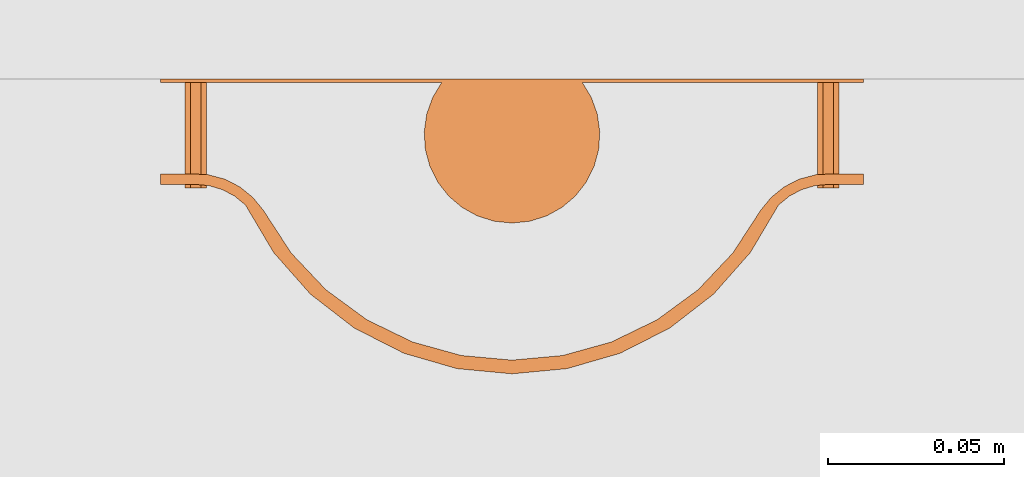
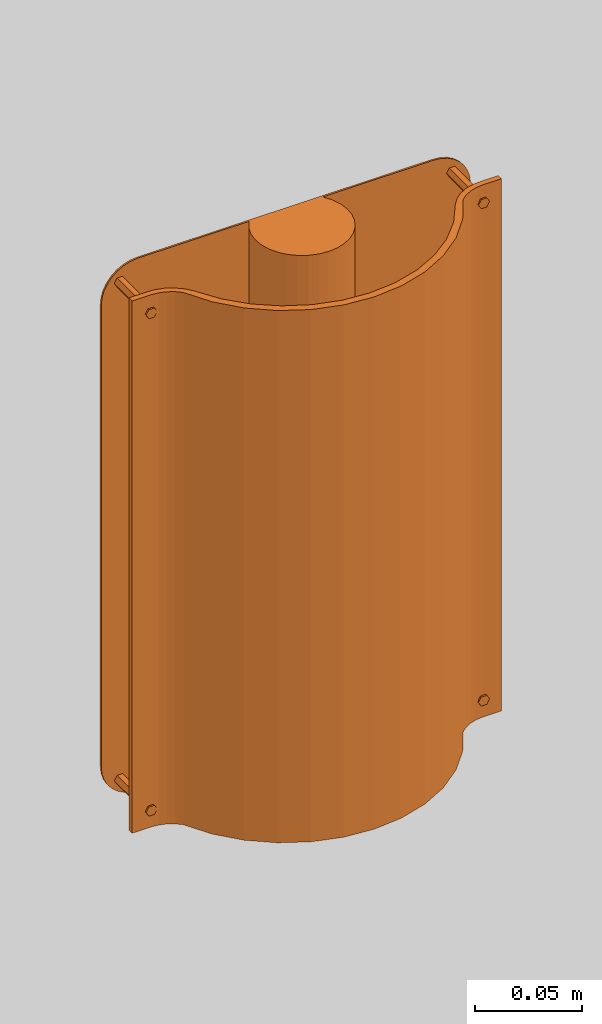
# One storey, part 30 of 48: 1 proxy.
"""IFC2X3 building model written with IfcOpenShell, lengths in inches."""

from ifc_helpers import new_model, entity, si_unit, converted_unit, derived_unit, money_unit, direction, frame, origin_with_axes, place, context, subcontext, project, spatial, faceted_brep, source, transform, mapped, type_object, element, save


model = new_model("IFC2X3")

# Units and contexts
model_context = context("Model", 3, precision=0.00039370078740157, world=origin_with_axes(), true_north=direction((0.0, 1.0)))
plan_context = context("Plan", 3, precision=0.00039370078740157, world=origin_with_axes(), true_north=direction((0.0, 1.0)))
body_context = subcontext(model_context, "Body", "Model", "MODEL_VIEW")
ifc_project = project(units=[converted_unit("LENGTHUNIT", "INCH", entity("IfcPositiveLengthMeasure", 0.0254), si_unit("LENGTHUNIT", "METRE"), dimensions=[1, 0, 0, 0, 0, 0, 0]), converted_unit("AREAUNIT", "SQUARE_FOOT", entity("IfcPositiveLengthMeasure", 0.09290304), si_unit("AREAUNIT", "SQUARE_METRE"), dimensions=[2, 0, 0, 0, 0, 0, 0]), si_unit("PLANEANGLEUNIT", "RADIAN"), si_unit("SOLIDANGLEUNIT", "STERADIAN"), money_unit("USD"), converted_unit("TIMEUNIT", "Year", entity("IfcTimeMeasure", 31557600.0), si_unit("TIMEUNIT", "SECOND"), dimensions=[0, 0, 1, 0, 0, 0, 0]), si_unit("MASSUNIT", "GRAM", prefix="KILO"), si_unit("THERMODYNAMICTEMPERATUREUNIT", "DEGREE_CELSIUS"), si_unit("LUMINOUSINTENSITYUNIT", "LUMEN"), si_unit("ENERGYUNIT", "JOULE", prefix="MEGA"), derived_unit("SPECIFICHEATCAPACITYUNIT", [(si_unit("ENERGYUNIT", "JOULE"), 1), (si_unit("MASSUNIT", "GRAM", prefix="KILO"), -1), (si_unit("THERMODYNAMICTEMPERATUREUNIT", "KELVIN"), -1)])], contexts=[model_context, plan_context])

# Site, building, storey
site_placement = place(None, origin_with_axes())
site = spatial("IfcSite", under=ifc_project, at=site_placement, Name="Site", CompositionType="ELEMENT")
building_placement = place(site_placement, origin_with_axes())
building = spatial("IfcBuilding", under=site, at=building_placement, Name="Building", CompositionType="ELEMENT")
storey_placement = place(building_placement, origin_with_axes())
storey = spatial("IfcBuildingStorey", under=building, at=storey_placement, Name="First Floor", CompositionType="ELEMENT", Elevation=0.0)

# Proxy
building_element_proxy_type = type_object("IfcBuildingElementProxyType", Name="Wall Lamp", PredefinedType="NOTDEFINED")
shared_shape = source(origin_with_axes(), body_context, "Body", "Brep", [
    faceted_brep([(3.9370078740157, -1.062992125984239, 0.0), (3.591991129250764, -1.063143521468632, 0.0), (3.591991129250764, -1.063143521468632, 11.99999999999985), (3.9370078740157, -1.062992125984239, 11.99999999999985), (3.9370078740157, -1.18110236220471, 0.0), (3.54330708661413, -1.18110236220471, 0.0), (3.389692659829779, -1.196232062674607, 0.0), (3.241981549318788, -1.241039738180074, 0.0), (3.105850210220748, -1.31380345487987, 0.0), (2.986530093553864, -1.411726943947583, 0.0), (2.669665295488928, -1.945564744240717, 0.0), (2.258517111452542, -2.410691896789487, 0.0), (1.767605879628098, -2.790681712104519, 0.0), (1.214268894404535, -3.072114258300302, 0.0), (0.6180481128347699, -3.245050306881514, 0.0), (0.0, -3.30338235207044, 0.0), (0.0, -3.14960629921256, 0.0), (0.5658852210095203, -3.098353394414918, 0.0), (1.113353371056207, -2.946262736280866, 0.0), (1.624586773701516, -2.698284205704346, 0.0), (2.082947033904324, -2.362488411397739, 0.0), (2.47351654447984, -1.949804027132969, 0.0), (2.783583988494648, -1.473662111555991, 0.0), (2.903069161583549, -1.326520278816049, 0.0), (3.050535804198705, -1.207436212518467, 0.0), (3.219538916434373, -1.121614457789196, 0.0), (3.402692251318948, -1.072805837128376, 0.0), (3.402692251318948, -1.072805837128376, 11.99999999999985), (3.219538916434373, -1.121614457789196, 11.99999999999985), (3.050535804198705, -1.207436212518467, 11.99999999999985), (2.903069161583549, -1.326520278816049, 11.99999999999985), (2.783583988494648, -1.473662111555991, 11.99999999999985), (2.47351654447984, -1.949804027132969, 11.99999999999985), (2.082947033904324, -2.362488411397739, 11.99999999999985), (1.624586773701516, -2.698284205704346, 11.99999999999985), (1.113353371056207, -2.946262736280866, 11.99999999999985), (0.5658852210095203, -3.098353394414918, 11.99999999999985), (0.0, -3.14960629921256, 11.99999999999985), (0.0, -3.30338235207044, 11.99999999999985), (0.6180481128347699, -3.245050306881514, 11.99999999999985), (1.214268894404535, -3.072114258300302, 11.99999999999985), (1.767605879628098, -2.790681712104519, 11.99999999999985), (2.258517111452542, -2.410691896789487, 11.99999999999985), (2.669665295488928, -1.945564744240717, 11.99999999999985), (2.986530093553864, -1.411726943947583, 11.99999999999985), (3.105850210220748, -1.31380345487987, 11.99999999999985), (3.241981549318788, -1.241039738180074, 11.99999999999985), (3.389692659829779, -1.196232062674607, 11.99999999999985), (3.54330708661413, -1.18110236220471, 11.99999999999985), (3.9370078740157, -1.18110236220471, 11.99999999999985)], [[[0, 1, 2, 3]], [[0, 4, 5, 6, 7, 8, 9, 10, 11, 12, 13, 14, 15, 16, 17, 18, 19, 20, 21, 22, 23, 24, 25, 26, 1]], [[1, 26, 27, 2]], [[3, 2, 27, 28, 29, 30, 31, 32, 33, 34, 35, 36, 37, 38, 39, 40, 41, 42, 43, 44, 45, 46, 47, 48, 49]], [[4, 0, 3, 49]], [[5, 4, 49, 48]], [[6, 5, 48, 47]], [[7, 6, 47, 46]], [[8, 7, 46, 45]], [[9, 8, 45, 44]], [[10, 9, 44, 43]], [[11, 10, 43, 42]], [[12, 11, 42, 41]], [[13, 12, 41, 40]], [[14, 13, 40, 39]], [[15, 14, 39, 38]], [[16, 15, 38, 37]], [[17, 16, 37, 36]], [[18, 17, 36, 35]], [[19, 18, 35, 34]], [[20, 19, 34, 33]], [[21, 20, 33, 32]], [[22, 21, 32, 31]], [[23, 22, 31, 30]], [[24, 23, 30, 29]], [[25, 24, 29, 28]], [[26, 25, 28, 27]]]),
    faceted_brep([(-3.9370078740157, -1.062992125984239, 0.0), (-3.9370078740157, -1.062992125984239, 11.99999999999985), (-3.591991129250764, -1.063143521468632, 11.99999999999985), (-3.591991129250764, -1.063143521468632, 0.0), (-3.9370078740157, -1.18110236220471, 0.0), (-3.9370078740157, -1.18110236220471, 11.99999999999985), (-3.54330708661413, -1.18110236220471, 11.99999999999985), (-3.389692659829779, -1.196232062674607, 11.99999999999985), (-3.241981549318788, -1.241039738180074, 11.99999999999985), (-3.105850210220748, -1.31380345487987, 11.99999999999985), (-2.986530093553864, -1.411726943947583, 11.99999999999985), (-2.669665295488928, -1.945564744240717, 11.99999999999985), (-2.258517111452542, -2.410691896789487, 11.99999999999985), (-1.767605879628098, -2.790681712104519, 11.99999999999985), (-1.214268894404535, -3.072114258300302, 11.99999999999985), (-0.6180481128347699, -3.245050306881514, 11.99999999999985), (0.0, -3.30338235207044, 11.99999999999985), (0.0, -3.14960629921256, 11.99999999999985), (-0.5658852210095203, -3.098353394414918, 11.99999999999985), (-1.113353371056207, -2.946262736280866, 11.99999999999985), (-1.624586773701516, -2.698284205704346, 11.99999999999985), (-2.082947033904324, -2.362488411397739, 11.99999999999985), (-2.47351654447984, -1.949804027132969, 11.99999999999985), (-2.783583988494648, -1.473662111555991, 11.99999999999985), (-2.903069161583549, -1.326520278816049, 11.99999999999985), (-3.050535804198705, -1.207436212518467, 11.99999999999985), (-3.219538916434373, -1.121614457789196, 11.99999999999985), (-3.402692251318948, -1.072805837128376, 11.99999999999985), (-3.402692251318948, -1.072805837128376, 0.0), (-3.219538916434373, -1.121614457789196, 0.0), (-3.050535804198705, -1.207436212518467, 0.0), (-2.903069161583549, -1.326520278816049, 0.0), (-2.783583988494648, -1.473662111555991, 0.0), (-2.47351654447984, -1.949804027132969, 0.0), (-2.082947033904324, -2.362488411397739, 0.0), (-1.624586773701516, -2.698284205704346, 0.0), (-1.113353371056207, -2.946262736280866, 0.0), (-0.5658852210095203, -3.098353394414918, 0.0), (0.0, -3.14960629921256, 0.0), (0.0, -3.30338235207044, 0.0), (-0.6180481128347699, -3.245050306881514, 0.0), (-1.214268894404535, -3.072114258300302, 0.0), (-1.767605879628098, -2.790681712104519, 0.0), (-2.258517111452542, -2.410691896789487, 0.0), (-2.669665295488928, -1.945564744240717, 0.0), (-2.986530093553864, -1.411726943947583, 0.0), (-3.105850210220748, -1.31380345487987, 0.0), (-3.241981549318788, -1.241039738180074, 0.0), (-3.389692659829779, -1.196232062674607, 0.0), (-3.54330708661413, -1.18110236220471, 0.0)], [[[0, 1, 2, 3]], [[4, 5, 1, 0]], [[1, 5, 6, 7, 8, 9, 10, 11, 12, 13, 14, 15, 16, 17, 18, 19, 20, 21, 22, 23, 24, 25, 26, 27, 2]], [[3, 2, 27, 28]], [[0, 3, 28, 29, 30, 31, 32, 33, 34, 35, 36, 37, 38, 39, 40, 41, 42, 43, 44, 45, 46, 47, 48, 49, 4]], [[49, 6, 5, 4]], [[48, 7, 6, 49]], [[47, 8, 7, 48]], [[46, 9, 8, 47]], [[45, 10, 9, 46]], [[44, 11, 10, 45]], [[43, 12, 11, 44]], [[42, 13, 12, 43]], [[41, 14, 13, 42]], [[40, 15, 14, 41]], [[39, 16, 15, 40]], [[38, 17, 16, 39]], [[37, 18, 17, 38]], [[36, 19, 18, 37]], [[35, 20, 19, 36]], [[34, 21, 20, 35]], [[33, 22, 21, 34]], [[32, 23, 22, 33]], [[31, 24, 23, 32]], [[30, 25, 24, 31]], [[29, 26, 25, 30]], [[28, 27, 26, 29]]]),
    faceted_brep([(3.14960629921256, 0.0, 0.0), (3.14960629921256, -0.039370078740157, 0.0), (-3.14960629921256, -0.039370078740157, 0.0), (-3.14960629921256, 0.0, 0.0), (3.303220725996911, 0.0, 0.01512970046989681), (3.303220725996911, -0.039370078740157, 0.01512970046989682), (3.450931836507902, -0.039370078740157, 0.05993737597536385), (3.587063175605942, -0.03937007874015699, 0.1327010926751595), (3.706383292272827, -0.03937007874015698, 0.230624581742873), (3.80430678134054, -0.03937007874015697, 0.3499446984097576), (3.877070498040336, -0.03937007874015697, 0.4860760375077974), (3.921878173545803, -0.03937007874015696, 0.633787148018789), (3.9370078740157, -0.03937007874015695, 0.78740157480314), (3.9370078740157, -0.03937007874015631, 11.21259842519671), (3.921878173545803, -0.0393700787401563, 11.36621285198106), (3.877070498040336, -0.03937007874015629, 11.51392396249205), (3.80430678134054, -0.03937007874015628, 11.65005530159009), (3.706383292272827, -0.03937007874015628, 11.76937541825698), (3.587063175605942, -0.03937007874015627, 11.86729890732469), (3.450931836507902, -0.03937007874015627, 11.94006262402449), (3.30322072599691, -0.03937007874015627, 11.98487029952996), (3.14960629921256, -0.03937007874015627, 11.99999999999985), (-3.14960629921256, -0.03937007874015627, 11.99999999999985), (-3.30322072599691, -0.03937007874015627, 11.98487029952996), (-3.450931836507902, -0.03937007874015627, 11.94006262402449), (-3.587063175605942, -0.03937007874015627, 11.86729890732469), (-3.706383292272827, -0.03937007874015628, 11.76937541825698), (-3.80430678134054, -0.03937007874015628, 11.65005530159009), (-3.877070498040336, -0.03937007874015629, 11.51392396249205), (-3.921878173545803, -0.0393700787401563, 11.36621285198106), (-3.9370078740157, -0.03937007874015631, 11.21259842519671), (-3.9370078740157, -0.03937007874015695, 0.7874015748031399), (-3.921878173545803, -0.03937007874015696, 0.6337871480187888), (-3.877070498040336, -0.03937007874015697, 0.4860760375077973), (-3.80430678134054, -0.03937007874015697, 0.3499446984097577), (-3.706383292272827, -0.03937007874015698, 0.2306245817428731), (-3.587063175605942, -0.03937007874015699, 0.1327010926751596), (-3.450931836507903, -0.039370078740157, 0.05993737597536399), (-3.303220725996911, -0.039370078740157, 0.01512970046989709), (-3.303220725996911, 0.0, 0.01512970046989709), (-3.450931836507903, 0.0, 0.05993737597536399), (-3.587063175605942, 0.0, 0.1327010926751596), (-3.706383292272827, 0.0, 0.2306245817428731), (-3.80430678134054, 0.0, 0.3499446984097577), (-3.877070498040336, 0.0, 0.4860760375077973), (-3.921878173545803, 0.0, 0.6337871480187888), (-3.9370078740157, 0.0, 0.7874015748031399), (-3.9370078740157, 0.0, 11.21259842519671), (-3.921878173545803, 0.0, 11.36621285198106), (-3.877070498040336, 0.0, 11.51392396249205), (-3.80430678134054, 0.0, 11.65005530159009), (-3.706383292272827, 0.0, 11.76937541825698), (-3.587063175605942, 0.0, 11.86729890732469), (-3.450931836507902, 0.0, 11.94006262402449), (-3.30322072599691, 0.0, 11.98487029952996), (-3.14960629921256, 0.0, 11.99999999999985), (3.14960629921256, 0.0, 11.99999999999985), (3.30322072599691, 0.0, 11.98487029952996), (3.450931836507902, 0.0, 11.94006262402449), (3.587063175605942, 0.0, 11.86729890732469), (3.706383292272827, 0.0, 11.76937541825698), (3.80430678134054, 0.0, 11.65005530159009), (3.877070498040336, 0.0, 11.51392396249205), (3.921878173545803, 0.0, 11.36621285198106), (3.9370078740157, 0.0, 11.21259842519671), (3.9370078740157, 0.0, 0.78740157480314), (3.921878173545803, 0.0, 0.633787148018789), (3.877070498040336, 0.0, 0.4860760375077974), (3.80430678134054, 0.0, 0.3499446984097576), (3.706383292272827, 0.0, 0.230624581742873), (3.587063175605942, 0.0, 0.1327010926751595), (3.450931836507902, 0.0, 0.05993737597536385)], [[[0, 1, 2, 3]], [[4, 5, 1, 0]], [[1, 5, 6, 7, 8, 9, 10, 11, 12, 13, 14, 15, 16, 17, 18, 19, 20, 21, 22, 23, 24, 25, 26, 27, 28, 29, 30, 31, 32, 33, 34, 35, 36, 37, 38, 2]], [[3, 2, 38, 39]], [[0, 3, 39, 40, 41, 42, 43, 44, 45, 46, 47, 48, 49, 50, 51, 52, 53, 54, 55, 56, 57, 58, 59, 60, 61, 62, 63, 64, 65, 66, 67, 68, 69, 70, 71, 4]], [[71, 6, 5, 4]], [[70, 7, 6, 71]], [[69, 8, 7, 70]], [[68, 9, 8, 69]], [[67, 10, 9, 68]], [[66, 11, 10, 67]], [[65, 12, 11, 66]], [[64, 13, 12, 65]], [[63, 14, 13, 64]], [[62, 15, 14, 63]], [[61, 16, 15, 62]], [[60, 17, 16, 61]], [[59, 18, 17, 60]], [[58, 19, 18, 59]], [[57, 20, 19, 58]], [[56, 21, 20, 57]], [[55, 22, 21, 56]], [[54, 23, 22, 55]], [[53, 24, 23, 54]], [[52, 25, 24, 53]], [[51, 26, 25, 52]], [[50, 27, 26, 51]], [[49, 28, 27, 50]], [[48, 29, 28, 49]], [[47, 30, 29, 48]], [[46, 31, 30, 47]], [[45, 32, 31, 46]], [[44, 33, 32, 45]], [[43, 34, 33, 44]], [[42, 35, 34, 43]], [[41, 36, 35, 42]], [[40, 37, 36, 41]], [[39, 38, 37, 40]]]),
    faceted_brep([(3.661417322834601, -0.03937007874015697, 0.39370078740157), (3.602362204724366, -0.03937007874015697, 0.4959872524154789), (3.602362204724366, -1.220472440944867, 0.495987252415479), (3.661417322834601, -1.220472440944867, 0.3937007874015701), (3.602362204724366, -0.03937007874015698, 0.291414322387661), (3.484251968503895, -0.03937007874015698, 0.2914143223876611), (3.425196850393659, -0.03937007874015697, 0.3937007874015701), (3.484251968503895, -0.03937007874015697, 0.495987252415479), (3.484251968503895, -1.220472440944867, 0.495987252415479), (3.425196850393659, -1.220472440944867, 0.3937007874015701), (3.484251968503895, -1.220472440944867, 0.2914143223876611), (3.602362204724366, -1.220472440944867, 0.2914143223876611)], [[[0, 1, 2, 3]], [[0, 4, 5, 6, 7, 1]], [[1, 7, 8, 2]], [[3, 2, 8, 9, 10, 11]], [[4, 0, 3, 11]], [[5, 4, 11, 10]], [[6, 5, 10, 9]], [[7, 6, 9, 8]]]),
    faceted_brep([(-3.425196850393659, -0.03937007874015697, 0.39370078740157), (-3.484251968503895, -0.03937007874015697, 0.4959872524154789), (-3.484251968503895, -1.220472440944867, 0.495987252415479), (-3.425196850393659, -1.220472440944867, 0.3937007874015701), (-3.484251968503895, -0.03937007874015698, 0.291414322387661), (-3.602362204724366, -0.03937007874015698, 0.2914143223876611), (-3.661417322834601, -0.03937007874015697, 0.3937007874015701), (-3.602362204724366, -0.03937007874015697, 0.495987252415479), (-3.602362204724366, -1.220472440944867, 0.495987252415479), (-3.661417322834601, -1.220472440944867, 0.3937007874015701), (-3.602362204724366, -1.220472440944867, 0.2914143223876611), (-3.484251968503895, -1.220472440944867, 0.2914143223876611)], [[[0, 1, 2, 3]], [[0, 4, 5, 6, 7, 1]], [[1, 7, 8, 2]], [[3, 2, 8, 9, 10, 11]], [[4, 0, 3, 11]], [[5, 4, 11, 10]], [[6, 5, 10, 9]], [[7, 6, 9, 8]]]),
    faceted_brep([(3.661417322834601, -0.03937007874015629, 11.60629921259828), (3.602362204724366, -0.03937007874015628, 11.70858567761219), (3.602362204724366, -1.220472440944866, 11.70858567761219), (3.661417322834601, -1.220472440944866, 11.60629921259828), (3.602362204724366, -0.03937007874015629, 11.50401274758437), (3.484251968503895, -0.03937007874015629, 11.50401274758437), (3.425196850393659, -0.03937007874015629, 11.60629921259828), (3.484251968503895, -0.03937007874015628, 11.70858567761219), (3.484251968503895, -1.220472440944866, 11.70858567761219), (3.425196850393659, -1.220472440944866, 11.60629921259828), (3.484251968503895, -1.220472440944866, 11.50401274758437), (3.602362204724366, -1.220472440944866, 11.50401274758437)], [[[0, 1, 2, 3]], [[0, 4, 5, 6, 7, 1]], [[1, 7, 8, 2]], [[3, 2, 8, 9, 10, 11]], [[4, 0, 3, 11]], [[5, 4, 11, 10]], [[6, 5, 10, 9]], [[7, 6, 9, 8]]]),
    faceted_brep([(-3.425196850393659, -0.03937007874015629, 11.60629921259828), (-3.484251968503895, -0.03937007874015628, 11.70858567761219), (-3.484251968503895, -1.220472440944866, 11.70858567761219), (-3.425196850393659, -1.220472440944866, 11.60629921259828), (-3.484251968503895, -0.03937007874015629, 11.50401274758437), (-3.602362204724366, -0.03937007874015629, 11.50401274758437), (-3.661417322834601, -0.03937007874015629, 11.60629921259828), (-3.602362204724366, -0.03937007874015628, 11.70858567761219), (-3.602362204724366, -1.220472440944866, 11.70858567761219), (-3.661417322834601, -1.220472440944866, 11.60629921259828), (-3.602362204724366, -1.220472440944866, 11.50401274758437), (-3.484251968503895, -1.220472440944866, 11.50401274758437)], [[[0, 1, 2, 3]], [[0, 4, 5, 6, 7, 1]], [[1, 7, 8, 2]], [[3, 2, 8, 9, 10, 11]], [[4, 0, 3, 11]], [[5, 4, 11, 10]], [[6, 5, 10, 9]], [[7, 6, 9, 8]]]),
    faceted_brep([(-0.7874015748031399, -0.039370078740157, 0.0), (-0.8895785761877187, -0.2087302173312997, 0.0), (-0.8895785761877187, -0.2087302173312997, 0.984251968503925), (-0.7874015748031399, -0.039370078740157, 0.984251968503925), (0.78740157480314, -0.039370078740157, 0.0), (0.889578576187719, -0.2087302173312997, 0.0), (0.9558299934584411, -0.3951001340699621, 0.0), (0.9834802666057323, -0.5909532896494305, 0.0), (0.971412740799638, -0.7883801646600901, 0.0), (0.9201147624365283, -0.9794076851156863, 0.0), (0.8316579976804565, -1.15632121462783, 0.0), (0.7096147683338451, -1.311976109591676, 0.0), (0.5589137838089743, -1.440086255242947, 0.0), (0.3856410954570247, -1.535477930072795, 0.0), (0.1967943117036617, -1.594298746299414, 0.0), (0.0, -1.614173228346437, 0.0), (-0.1967943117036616, -1.594298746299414, 0.0), (-0.3856410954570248, -1.535477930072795, 0.0), (-0.5589137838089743, -1.440086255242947, 0.0), (-0.7096147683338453, -1.311976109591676, 0.0), (-0.8316579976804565, -1.15632121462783, 0.0), (-0.9201147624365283, -0.979407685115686, 0.0), (-0.971412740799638, -0.7883801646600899, 0.0), (-0.9834802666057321, -0.5909532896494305, 0.0), (-0.9558299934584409, -0.3951001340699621, 0.0), (-0.9558299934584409, -0.3951001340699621, 0.984251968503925), (-0.9834802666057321, -0.5909532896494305, 0.984251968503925), (-0.971412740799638, -0.7883801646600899, 0.984251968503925), (-0.9201147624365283, -0.979407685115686, 0.984251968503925), (-0.8316579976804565, -1.15632121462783, 0.984251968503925), (-0.7096147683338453, -1.311976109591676, 0.984251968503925), (-0.5589137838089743, -1.440086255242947, 0.984251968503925), (-0.3856410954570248, -1.535477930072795, 0.984251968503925), (-0.1967943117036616, -1.594298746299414, 0.984251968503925), (0.0, -1.614173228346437, 0.984251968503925), (0.1967943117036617, -1.594298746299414, 0.984251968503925), (0.3856410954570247, -1.535477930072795, 0.984251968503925), (0.5589137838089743, -1.440086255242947, 0.984251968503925), (0.7096147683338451, -1.311976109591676, 0.984251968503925), (0.8316579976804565, -1.15632121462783, 0.984251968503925), (0.9201147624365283, -0.9794076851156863, 0.984251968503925), (0.971412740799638, -0.7883801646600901, 0.984251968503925), (0.9834802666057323, -0.5909532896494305, 0.984251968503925), (0.9558299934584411, -0.3951001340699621, 0.984251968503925), (0.889578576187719, -0.2087302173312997, 0.984251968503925), (0.78740157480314, -0.039370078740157, 0.984251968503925)], [[[0, 1, 2, 3]], [[0, 4, 5, 6, 7, 8, 9, 10, 11, 12, 13, 14, 15, 16, 17, 18, 19, 20, 21, 22, 23, 24, 1]], [[1, 24, 25, 2]], [[3, 2, 25, 26, 27, 28, 29, 30, 31, 32, 33, 34, 35, 36, 37, 38, 39, 40, 41, 42, 43, 44, 45]], [[4, 0, 3, 45]], [[5, 4, 45, 44]], [[6, 5, 44, 43]], [[7, 6, 43, 42]], [[8, 7, 42, 41]], [[9, 8, 41, 40]], [[10, 9, 40, 39]], [[11, 10, 39, 38]], [[12, 11, 38, 37]], [[13, 12, 37, 36]], [[14, 13, 36, 35]], [[15, 14, 35, 34]], [[16, 15, 34, 33]], [[17, 16, 33, 32]], [[18, 17, 32, 31]], [[19, 18, 31, 30]], [[20, 19, 30, 29]], [[21, 20, 29, 28]], [[22, 21, 28, 27]], [[23, 22, 27, 26]], [[24, 23, 26, 25]]]),
    faceted_brep([(-0.7874015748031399, -0.039370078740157, 11.01574803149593), (-0.8895785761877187, -0.2087302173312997, 11.01574803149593), (-0.8895785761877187, -0.2087302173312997, 11.99999999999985), (-0.7874015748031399, -0.039370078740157, 11.99999999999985), (0.78740157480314, -0.039370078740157, 11.01574803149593), (0.889578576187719, -0.2087302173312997, 11.01574803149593), (0.9558299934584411, -0.3951001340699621, 11.01574803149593), (0.9834802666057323, -0.5909532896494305, 11.01574803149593), (0.971412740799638, -0.7883801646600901, 11.01574803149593), (0.9201147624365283, -0.9794076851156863, 11.01574803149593), (0.8316579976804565, -1.15632121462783, 11.01574803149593), (0.7096147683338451, -1.311976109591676, 11.01574803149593), (0.5589137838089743, -1.440086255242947, 11.01574803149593), (0.3856410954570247, -1.535477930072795, 11.01574803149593), (0.1967943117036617, -1.594298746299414, 11.01574803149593), (0.0, -1.614173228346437, 11.01574803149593), (-0.1967943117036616, -1.594298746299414, 11.01574803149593), (-0.3856410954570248, -1.535477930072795, 11.01574803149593), (-0.5589137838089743, -1.440086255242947, 11.01574803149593), (-0.7096147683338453, -1.311976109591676, 11.01574803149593), (-0.8316579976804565, -1.15632121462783, 11.01574803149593), (-0.9201147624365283, -0.979407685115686, 11.01574803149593), (-0.971412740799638, -0.7883801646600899, 11.01574803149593), (-0.9834802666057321, -0.5909532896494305, 11.01574803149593), (-0.9558299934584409, -0.3951001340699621, 11.01574803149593), (-0.9558299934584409, -0.3951001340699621, 11.99999999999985), (-0.9834802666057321, -0.5909532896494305, 11.99999999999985), (-0.971412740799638, -0.7883801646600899, 11.99999999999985), (-0.9201147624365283, -0.979407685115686, 11.99999999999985), (-0.8316579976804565, -1.15632121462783, 11.99999999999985), (-0.7096147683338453, -1.311976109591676, 11.99999999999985), (-0.5589137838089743, -1.440086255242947, 11.99999999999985), (-0.3856410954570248, -1.535477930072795, 11.99999999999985), (-0.1967943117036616, -1.594298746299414, 11.99999999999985), (0.0, -1.614173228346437, 11.99999999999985), (0.1967943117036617, -1.594298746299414, 11.99999999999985), (0.3856410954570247, -1.535477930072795, 11.99999999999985), (0.5589137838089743, -1.440086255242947, 11.99999999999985), (0.7096147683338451, -1.311976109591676, 11.99999999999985), (0.8316579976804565, -1.15632121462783, 11.99999999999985), (0.9201147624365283, -0.9794076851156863, 11.99999999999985), (0.971412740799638, -0.7883801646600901, 11.99999999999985), (0.9834802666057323, -0.5909532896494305, 11.99999999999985), (0.9558299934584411, -0.3951001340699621, 11.99999999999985), (0.889578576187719, -0.2087302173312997, 11.99999999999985), (0.78740157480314, -0.039370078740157, 11.99999999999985)], [[[0, 1, 2, 3]], [[0, 4, 5, 6, 7, 8, 9, 10, 11, 12, 13, 14, 15, 16, 17, 18, 19, 20, 21, 22, 23, 24, 1]], [[1, 24, 25, 2]], [[3, 2, 25, 26, 27, 28, 29, 30, 31, 32, 33, 34, 35, 36, 37, 38, 39, 40, 41, 42, 43, 44, 45]], [[4, 0, 3, 45]], [[5, 4, 45, 44]], [[6, 5, 44, 43]], [[7, 6, 43, 42]], [[8, 7, 42, 41]], [[9, 8, 41, 40]], [[10, 9, 40, 39]], [[11, 10, 39, 38]], [[12, 11, 38, 37]], [[13, 12, 37, 36]], [[14, 13, 36, 35]], [[15, 14, 35, 34]], [[16, 15, 34, 33]], [[17, 16, 33, 32]], [[18, 17, 32, 31]], [[19, 18, 31, 30]], [[20, 19, 30, 29]], [[21, 20, 29, 28]], [[22, 21, 28, 27]], [[23, 22, 27, 26]], [[24, 23, 26, 25]]]),
    faceted_brep([(-0.7874015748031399, -0.039370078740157, 0.984251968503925), (-0.8895785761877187, -0.2087302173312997, 0.984251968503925), (-0.8895785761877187, -0.2087302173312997, 11.01574803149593), (-0.7874015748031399, -0.039370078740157, 11.01574803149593), (0.78740157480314, -0.039370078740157, 0.984251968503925), (0.889578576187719, -0.2087302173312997, 0.984251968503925), (0.9558299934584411, -0.3951001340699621, 0.984251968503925), (0.9834802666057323, -0.5909532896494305, 0.984251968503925), (0.971412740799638, -0.7883801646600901, 0.984251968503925), (0.9201147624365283, -0.9794076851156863, 0.984251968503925), (0.8316579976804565, -1.15632121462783, 0.984251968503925), (0.7096147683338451, -1.311976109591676, 0.984251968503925), (0.5589137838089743, -1.440086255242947, 0.984251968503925), (0.3856410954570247, -1.535477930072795, 0.984251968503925), (0.1967943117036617, -1.594298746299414, 0.984251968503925), (0.0, -1.614173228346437, 0.984251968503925), (-0.1967943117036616, -1.594298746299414, 0.984251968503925), (-0.3856410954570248, -1.535477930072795, 0.984251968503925), (-0.5589137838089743, -1.440086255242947, 0.984251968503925), (-0.7096147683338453, -1.311976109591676, 0.984251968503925), (-0.8316579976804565, -1.15632121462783, 0.984251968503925), (-0.9201147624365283, -0.979407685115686, 0.984251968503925), (-0.971412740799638, -0.7883801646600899, 0.984251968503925), (-0.9834802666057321, -0.5909532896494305, 0.984251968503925), (-0.9558299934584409, -0.3951001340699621, 0.984251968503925), (-0.9558299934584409, -0.3951001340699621, 11.01574803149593), (-0.9834802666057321, -0.5909532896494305, 11.01574803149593), (-0.971412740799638, -0.7883801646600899, 11.01574803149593), (-0.9201147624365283, -0.979407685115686, 11.01574803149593), (-0.8316579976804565, -1.15632121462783, 11.01574803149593), (-0.7096147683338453, -1.311976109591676, 11.01574803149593), (-0.5589137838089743, -1.440086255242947, 11.01574803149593), (-0.3856410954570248, -1.535477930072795, 11.01574803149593), (-0.1967943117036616, -1.594298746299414, 11.01574803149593), (0.0, -1.614173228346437, 11.01574803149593), (0.1967943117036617, -1.594298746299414, 11.01574803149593), (0.3856410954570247, -1.535477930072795, 11.01574803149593), (0.5589137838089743, -1.440086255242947, 11.01574803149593), (0.7096147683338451, -1.311976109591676, 11.01574803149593), (0.8316579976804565, -1.15632121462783, 11.01574803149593), (0.9201147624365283, -0.9794076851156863, 11.01574803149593), (0.971412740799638, -0.7883801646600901, 11.01574803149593), (0.9834802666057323, -0.5909532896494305, 11.01574803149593), (0.9558299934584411, -0.3951001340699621, 11.01574803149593), (0.889578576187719, -0.2087302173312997, 11.01574803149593), (0.78740157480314, -0.039370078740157, 11.01574803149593)], [[[0, 1, 2, 3]], [[0, 4, 5, 6, 7, 8, 9, 10, 11, 12, 13, 14, 15, 16, 17, 18, 19, 20, 21, 22, 23, 24, 1]], [[1, 24, 25, 2]], [[3, 2, 25, 26, 27, 28, 29, 30, 31, 32, 33, 34, 35, 36, 37, 38, 39, 40, 41, 42, 43, 44, 45]], [[4, 0, 3, 45]], [[5, 4, 45, 44]], [[6, 5, 44, 43]], [[7, 6, 43, 42]], [[8, 7, 42, 41]], [[9, 8, 41, 40]], [[10, 9, 40, 39]], [[11, 10, 39, 38]], [[12, 11, 38, 37]], [[13, 12, 37, 36]], [[14, 13, 36, 35]], [[15, 14, 35, 34]], [[16, 15, 34, 33]], [[17, 16, 33, 32]], [[18, 17, 32, 31]], [[19, 18, 31, 30]], [[20, 19, 30, 29]], [[21, 20, 29, 28]], [[22, 21, 28, 27]], [[23, 22, 27, 26]], [[24, 23, 26, 25]]]),
])
proxy_placement = place(storey_placement, frame((14.00577606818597, 357.499999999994, 58.99999999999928), z_axis=(0.0, 0.0, 1.0), x_axis=(1.0, 0.0, 0.0)))
element("IfcBuildingElementProxy", 1, at=proxy_placement, inside=storey, type_object=building_element_proxy_type, Name="L-17", context=body_context, shape_type="MappedRepresentation", body=[
    mapped(shared_shape, transform((0.0, 0.0, 0.0))),
])

save(model, "model.ifc")
